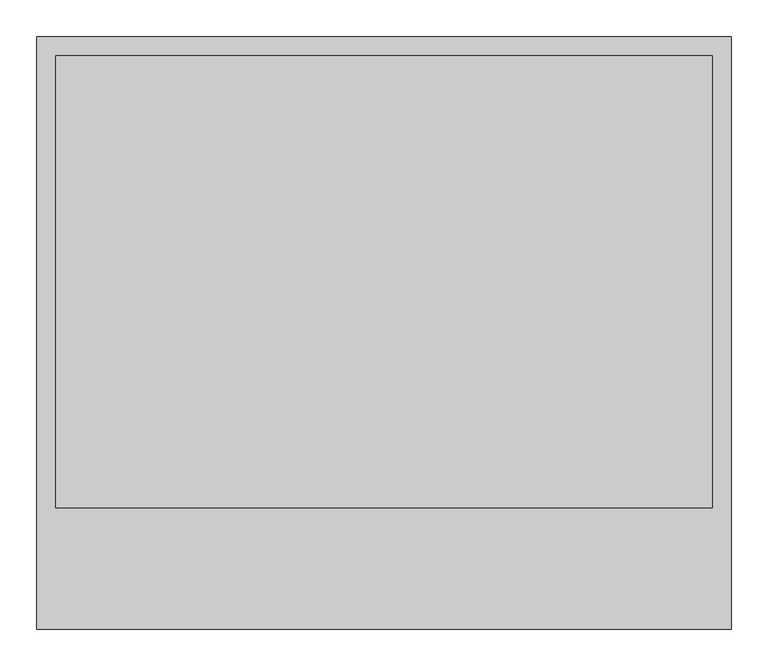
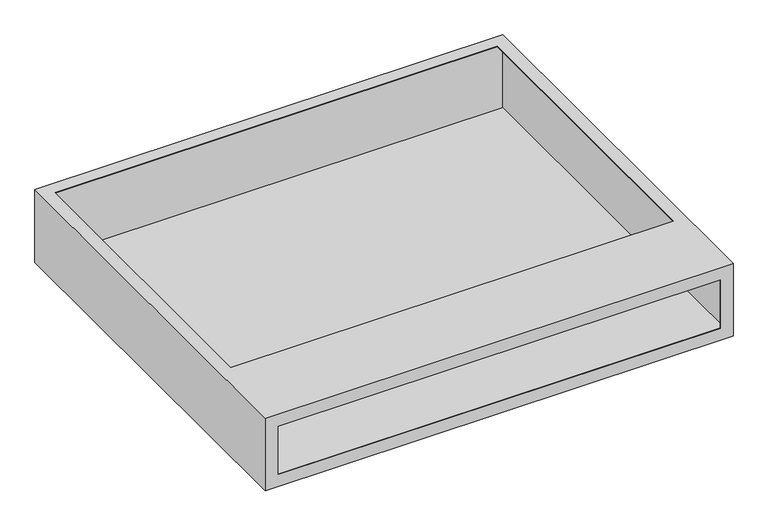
"""IFC4 building model written with IfcOpenShell, lengths in millimetres: valve geometry, USYSTEMS_Коллекторный шкаф_Накладной : 950x160 мм."""

from ifc_helpers import new_model, si_unit, origin, place, context, project, spatial, faceted_brep, source, transform, mapped, element, save


def valve_ecdb27b7(model_context):
    return source(origin(), model_context, "Body", "Brep", [
        faceted_brep([(475.0, 405.0, 156.0), (-475.0, 405.0, 156.0), (-475.0, -405.0, 156.0), (475.0, -405.0, 156.0), (-449.0, 379.0, 156.0), (449.0, 379.0, 156.0), (449.0, -239.0, 156.0), (-449.0, -239.0, 156.0), (475.0, 405.0, 0.0), (475.0, -405.0, 0.0), (-475.0, -405.0, 0.0), (-475.0, 405.0, 0.0), (-449.0, -405.0, 130.0), (449.0, -405.0, 130.0), (449.0, -405.0, 26.0), (-449.0, -405.0, 26.0), (-449.0, 379.0, 155.0), (449.0, 379.0, 155.0), (-449.0, -239.0, 155.0), (449.0, -239.0, 155.0), (474.0, 404.0, 155.0), (474.0, -404.0, 155.0), (-474.0, -404.0, 155.0), (-474.0, 404.0, 155.0), (474.0, 404.0, 1.0), (-474.0, 404.0, 1.0), (-474.0, -404.0, 1.0), (474.0, -404.0, 1.0), (449.0, -404.0, 130.0), (-449.0, -404.0, 130.0), (-449.0, -404.0, 26.0), (449.0, -404.0, 26.0)], [[[0, 1, 2, 3], [4, 5, 6, 7]], [[8, 9, 10, 11]], [[1, 0, 8, 11]], [[2, 1, 11, 10]], [[3, 2, 10, 9], [12, 13, 14, 15]], [[0, 3, 9, 8]], [[4, 16, 17, 5]], [[16, 4, 7, 18]], [[18, 7, 6, 19]], [[5, 17, 19, 6]], [[20, 21, 22, 23], [17, 16, 18, 19]], [[24, 25, 26, 27]], [[20, 23, 25, 24]], [[23, 22, 26, 25]], [[22, 21, 27, 26], [28, 29, 30, 31]], [[21, 20, 24, 27]], [[28, 13, 12, 29]], [[29, 12, 15, 30]], [[30, 15, 14, 31]], [[13, 28, 31, 14]]]),
    ])


if __name__ == "__main__":
    model = new_model("IFC4")
    model_context = context("Model", 3, world=origin())
    ifc_project = project(units=[si_unit("LENGTHUNIT", "METRE", prefix="MILLI")], contexts=[model_context])
    site = spatial("IfcSite", under=ifc_project)
    building = spatial("IfcBuilding", under=site)
    placement = place(None, origin())
    valve_shape = valve_ecdb27b7(model_context)
    element("IfcValve", 1, ObjectType="USYSTEMS_Коллекторный шкаф_Накладной : 950x160 мм", at=placement, inside=building, context=model_context, shape_type="MappedRepresentation", body=[
        mapped(valve_shape, transform((0.0, 0.0, 0.0), x_axis=(1.0, 0.0, 0.0), y_axis=(0.0, 1.0, 0.0), z_axis=(0.0, 0.0, 1.0))),
    ])
    save(model, "model.ifc")
